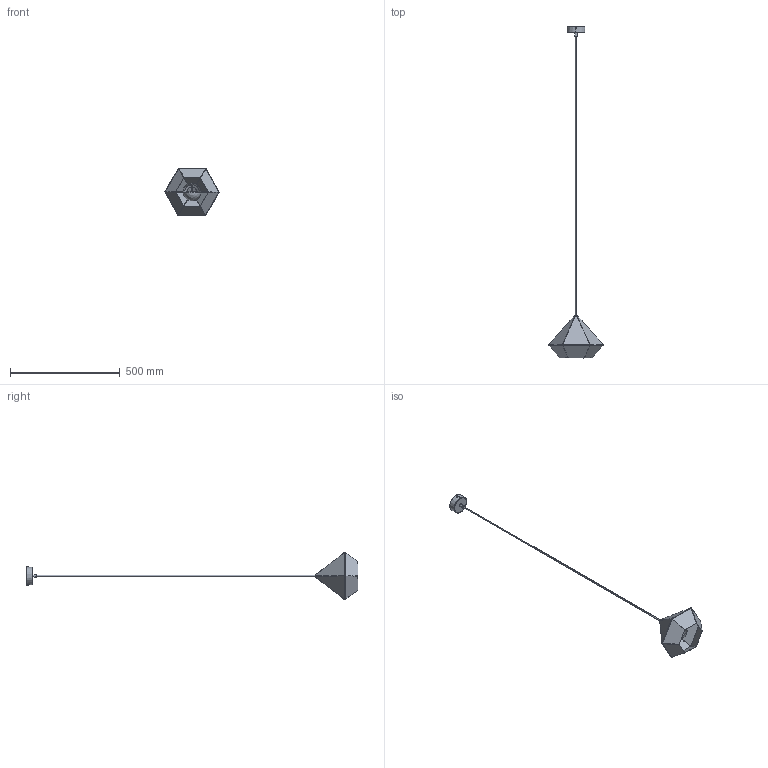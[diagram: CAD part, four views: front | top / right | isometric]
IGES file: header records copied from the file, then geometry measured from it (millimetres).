
Start section: SolidWorks IGES file using analytic representation for surfaces
Global section: file name: E:\3D lampy\Diamond\Diamond_6342,6344\Diamond_6342,6344.IGS; native system: SolidWorks 2016; preprocessor: SolidWorks 2016; author: Asia; date: 170512.110802; units: millimetre
Bounding box: 248.21 x 1513.87 x 216.81 mm (x, y, z)
Surface area: 338740 mm2 (no closed solid volume)
Topology: 0 solids, 0 shells, 927 faces, 14323 edges, 14281 vertices
Faces by surface type: revolution 478, bspline 449
